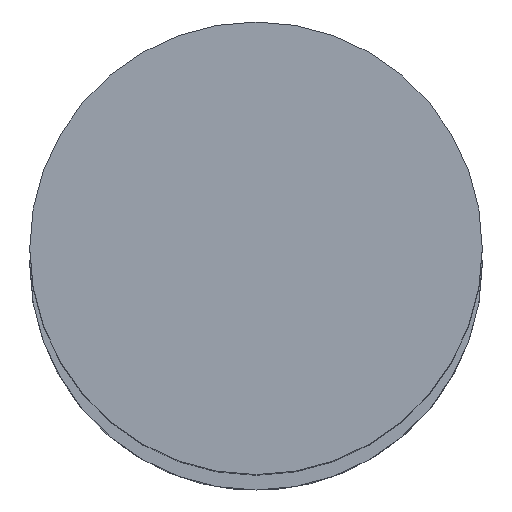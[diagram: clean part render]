
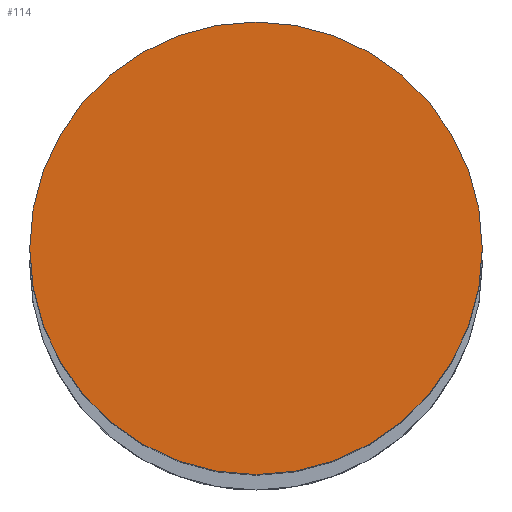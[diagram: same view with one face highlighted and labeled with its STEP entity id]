
A CAD part, top view. The second image highlights one B-rep face of the part: STEP entity #114.
In plain terms, the highlighted planar face has unit normal (0, 0, 1).
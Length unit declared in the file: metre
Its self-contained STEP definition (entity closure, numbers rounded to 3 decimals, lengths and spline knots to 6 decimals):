
#114=ADVANCED_FACE('0:129',(#220),#221,.T.);
#220=FACE_OUTER_BOUND('',#320,.T.);
#221=PLANE('',#321);
#320=EDGE_LOOP('',(#531,#532));
#321=AXIS2_PLACEMENT_3D('',#533,#534,#535);
#531=ORIENTED_EDGE('',*,*,#588,.F.);
#532=ORIENTED_EDGE('',*,*,#621,.F.);
#533=CARTESIAN_POINT('',(0.,0.,0.24));
#534=DIRECTION('',(0.0,0.0,1.0));
#535=DIRECTION('',(1.0,0.0,0.0));
#588=EDGE_CURVE('',#702,#698,#704,.F.);
#621=EDGE_CURVE('',#698,#702,#754,.F.);
#698=VERTEX_POINT('',#848);
#702=VERTEX_POINT('',#853);
#704=CIRCLE('',#856,0.008);
#754=CIRCLE('',#913,0.008);
#848=CARTESIAN_POINT('',(0.00789,0.000133,0.24));
#853=CARTESIAN_POINT('',(-0.00811,0.000133,0.24));
#856=AXIS2_PLACEMENT_3D('',#995,#996,#997);
#913=AXIS2_PLACEMENT_3D('',#1053,#1054,#1055);
#995=CARTESIAN_POINT('',(-0.00011,0.000133,0.24));
#996=DIRECTION('',(0.0,0.0,1.0));
#997=DIRECTION('',(1.0,0.0,0.0));
#1053=CARTESIAN_POINT('',(-0.00011,0.000133,0.24));
#1054=DIRECTION('',(0.0,0.0,1.0));
#1055=DIRECTION('',(1.0,0.0,0.0));
